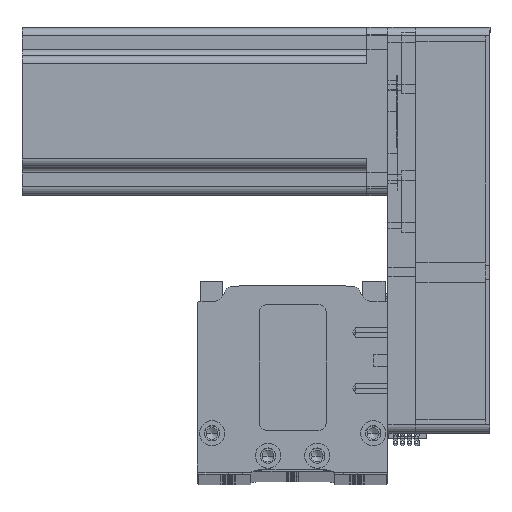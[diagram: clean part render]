
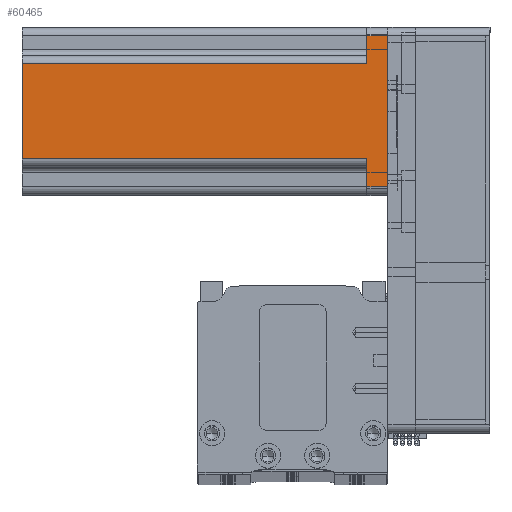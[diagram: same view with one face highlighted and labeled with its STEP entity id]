
A CAD part, top view. The second image highlights one B-rep face of the part: STEP entity #60465.
In plain terms, the highlighted planar face has unit normal (0, 0, 1) as drawn and (0, -1, 0) by its records, which use the part's own axes.
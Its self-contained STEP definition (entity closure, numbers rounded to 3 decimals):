
#86 = DIRECTION ( 'NONE',  ( 1., 0., 0. ) ) ;
#1467 = VERTEX_POINT ( 'NONE', #22875 ) ;
#3375 = EDGE_CURVE ( 'NONE', #37690, #58774, #10735, .T. ) ;
#3405 = PLANE ( 'NONE',  #33711 ) ;
#3492 = DIRECTION ( 'NONE',  ( -1., 0., 0. ) ) ;
#3655 = EDGE_LOOP ( 'NONE', ( #37816, #27265, #58537, #26178, #69520, #6353, #39413, #20096 ) ) ;
#4586 = DIRECTION ( 'NONE',  ( 1., 0., 0. ) ) ;
#5087 = LINE ( 'NONE', #68676, #19786 ) ;
#5693 = CARTESIAN_POINT ( 'NONE',  ( 30., -30., 0. ) ) ;
#6353 = ORIENTED_EDGE ( 'NONE', *, *, #3375, .T. ) ;
#6438 = LINE ( 'NONE', #70280, #61387 ) ;
#7835 = EDGE_CURVE ( 'NONE', #61051, #1467, #5087, .T. ) ;
#10735 = LINE ( 'NONE', #38412, #54563 ) ;
#11246 = CARTESIAN_POINT ( 'NONE',  ( -17., -30., 130.7 ) ) ;
#12085 = EDGE_CURVE ( 'NONE', #34522, #58101, #45019, .T. ) ;
#13185 = CARTESIAN_POINT ( 'NONE',  ( 17., -30., 130.7 ) ) ;
#13212 = LINE ( 'NONE', #5693, #40723 ) ;
#14005 = VECTOR ( 'NONE', #16784, 1000. ) ;
#14100 = VERTEX_POINT ( 'NONE', #13185 ) ;
#14193 = CARTESIAN_POINT ( 'NONE',  ( -27., -30., 7.5 ) ) ;
#16784 = DIRECTION ( 'NONE',  ( 0., 0., -1. ) ) ;
#17035 = EDGE_CURVE ( 'NONE', #1467, #37690, #13212, .T. ) ;
#18958 = CARTESIAN_POINT ( 'NONE',  ( -17., -30., 130.7 ) ) ;
#19786 = VECTOR ( 'NONE', #58382, 1000. ) ;
#20096 = ORIENTED_EDGE ( 'NONE', *, *, #59186, .T. ) ;
#22875 = CARTESIAN_POINT ( 'NONE',  ( -27., -30., 0. ) ) ;
#26121 = DIRECTION ( 'NONE',  ( 0., 0., 1. ) ) ;
#26178 = ORIENTED_EDGE ( 'NONE', *, *, #7835, .T. ) ;
#27265 = ORIENTED_EDGE ( 'NONE', *, *, #12085, .T. ) ;
#30494 = DIRECTION ( 'NONE',  ( 1., 0., 0. ) ) ;
#31298 = DIRECTION ( 'NONE',  ( 0., 1., 0. ) ) ;
#31498 = EDGE_CURVE ( 'NONE', #58774, #52634, #53672, .T. ) ;
#33711 = AXIS2_PLACEMENT_3D ( 'NONE', #64136, #31298, #69598 ) ;
#34522 = VERTEX_POINT ( 'NONE', #18958 ) ;
#35268 = EDGE_CURVE ( 'NONE', #61051, #58101, #54438, .T. ) ;
#36850 = VECTOR ( 'NONE', #26121, 1000. ) ;
#36894 = CARTESIAN_POINT ( 'NONE',  ( 17., -30., 130.7 ) ) ;
#37690 = VERTEX_POINT ( 'NONE', #63948 ) ;
#37816 = ORIENTED_EDGE ( 'NONE', *, *, #47603, .F. ) ;
#38317 = DIRECTION ( 'NONE',  ( 0., 0., 1. ) ) ;
#38412 = CARTESIAN_POINT ( 'NONE',  ( 27., -30., 130.7 ) ) ;
#39137 = CARTESIAN_POINT ( 'NONE',  ( 27., -30., 7.5 ) ) ;
#39413 = ORIENTED_EDGE ( 'NONE', *, *, #31498, .T. ) ;
#39813 = VECTOR ( 'NONE', #30494, 1000. ) ;
#40723 = VECTOR ( 'NONE', #86, 1000. ) ;
#41898 = FACE_OUTER_BOUND ( 'NONE', #3655, .T. ) ;
#45019 = LINE ( 'NONE', #11246, #14005 ) ;
#47603 = EDGE_CURVE ( 'NONE', #34522, #14100, #6438, .T. ) ;
#49398 = CARTESIAN_POINT ( 'NONE',  ( -17., -30., 7.5 ) ) ;
#51526 = LINE ( 'NONE', #36894, #36850 ) ;
#52634 = VERTEX_POINT ( 'NONE', #61636 ) ;
#53672 = LINE ( 'NONE', #69004, #68171 ) ;
#54438 = LINE ( 'NONE', #57806, #39813 ) ;
#54563 = VECTOR ( 'NONE', #38317, 1000. ) ;
#57806 = CARTESIAN_POINT ( 'NONE',  ( -20., -30., 7.5 ) ) ;
#58101 = VERTEX_POINT ( 'NONE', #49398 ) ;
#58382 = DIRECTION ( 'NONE',  ( 0., 0., -1. ) ) ;
#58537 = ORIENTED_EDGE ( 'NONE', *, *, #35268, .F. ) ;
#58774 = VERTEX_POINT ( 'NONE', #39137 ) ;
#59186 = EDGE_CURVE ( 'NONE', #52634, #14100, #51526, .T. ) ;
#60465 = ADVANCED_FACE ( 'NONE', ( #41898 ), #3405, .F. ) ;
#61051 = VERTEX_POINT ( 'NONE', #14193 ) ;
#61387 = VECTOR ( 'NONE', #4586, 1000. ) ;
#61636 = CARTESIAN_POINT ( 'NONE',  ( 17., -30., 7.5 ) ) ;
#63948 = CARTESIAN_POINT ( 'NONE',  ( 27., -30., 0. ) ) ;
#64136 = CARTESIAN_POINT ( 'NONE',  ( 30., -30., 130.7 ) ) ;
#68171 = VECTOR ( 'NONE', #3492, 1000. ) ;
#68676 = CARTESIAN_POINT ( 'NONE',  ( -27., -30., 130.7 ) ) ;
#69004 = CARTESIAN_POINT ( 'NONE',  ( 20., -30., 7.5 ) ) ;
#69520 = ORIENTED_EDGE ( 'NONE', *, *, #17035, .T. ) ;
#69598 = DIRECTION ( 'NONE',  ( -1., 0., 0. ) ) ;
#70280 = CARTESIAN_POINT ( 'NONE',  ( 30., -30., 130.7 ) ) ;
